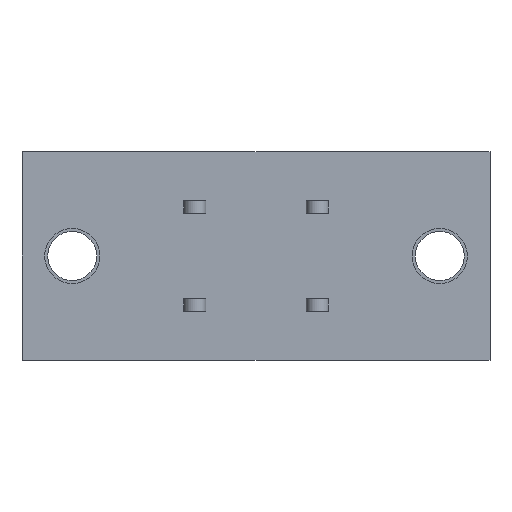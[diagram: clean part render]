
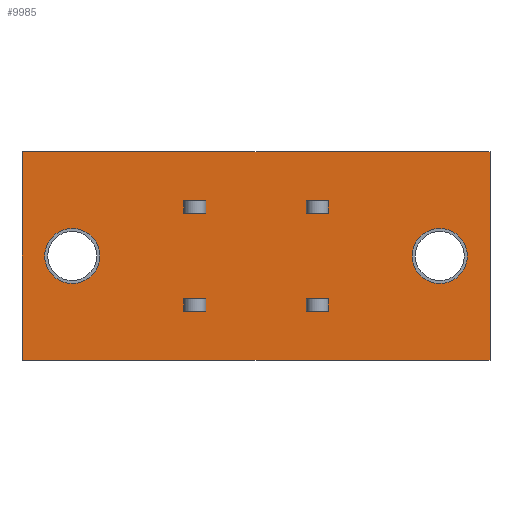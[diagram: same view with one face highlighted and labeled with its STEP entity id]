
A CAD part, front view. The second image highlights one B-rep face of the part: STEP entity #9985.
In plain terms, the highlighted planar face has unit normal (0, -1, 0).
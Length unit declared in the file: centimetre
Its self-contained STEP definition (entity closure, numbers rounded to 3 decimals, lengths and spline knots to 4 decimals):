
#526=CIRCLE('',#10588,0.225);
#527=CIRCLE('',#10589,0.225);
#619=VERTEX_POINT('',#13096);
#620=VERTEX_POINT('',#13097);
#623=VERTEX_POINT('',#13105);
#629=VERTEX_POINT('',#13120);
#630=VERTEX_POINT('',#13121);
#633=VERTEX_POINT('',#13129);
#635=VERTEX_POINT('',#13135);
#661=VERTEX_POINT('',#13208);
#676=VERTEX_POINT('',#13259);
#677=VERTEX_POINT('',#13260);
#678=VERTEX_POINT('',#13262);
#679=VERTEX_POINT('',#13264);
#680=VERTEX_POINT('',#13267);
#681=VERTEX_POINT('',#13268);
#682=VERTEX_POINT('',#13270);
#683=VERTEX_POINT('',#13272);
#684=VERTEX_POINT('',#13275);
#685=VERTEX_POINT('',#13276);
#686=VERTEX_POINT('',#13278);
#687=VERTEX_POINT('',#13280);
#688=VERTEX_POINT('',#13283);
#689=VERTEX_POINT('',#13285);
#1651=VECTOR('',#11137,1.);
#1655=VECTOR('',#11142,1.);
#1661=VECTOR('',#11152,1.);
#1664=VECTOR('',#11158,1.);
#1667=VECTOR('',#11162,1.);
#1693=VECTOR('',#11221,1.);
#1694=VECTOR('',#11223,1.);
#1705=VECTOR('',#11239,1.);
#1715=VECTOR('',#11264,1.);
#1716=VECTOR('',#11265,1.);
#1717=VECTOR('',#11266,1.);
#1718=VECTOR('',#11267,1.);
#1719=VECTOR('',#11268,1.);
#1720=VECTOR('',#11269,1.);
#1721=VECTOR('',#11270,1.);
#1722=VECTOR('',#11271,1.);
#1723=VECTOR('',#11272,1.);
#1724=VECTOR('',#11273,1.);
#1725=VECTOR('',#11274,1.);
#1726=VECTOR('',#11275,1.);
#2843=LINE('',#13095,#1651);
#2847=LINE('',#13104,#1655);
#2853=LINE('',#13119,#1661);
#2856=LINE('',#13128,#1664);
#2859=LINE('',#13134,#1667);
#2885=LINE('',#13205,#1693);
#2886=LINE('',#13207,#1694);
#2897=LINE('',#13228,#1705);
#2907=LINE('',#13258,#1715);
#2908=LINE('',#13261,#1716);
#2909=LINE('',#13263,#1717);
#2910=LINE('',#13265,#1718);
#2911=LINE('',#13266,#1719);
#2912=LINE('',#13269,#1720);
#2913=LINE('',#13271,#1721);
#2914=LINE('',#13273,#1722);
#2915=LINE('',#13274,#1723);
#2916=LINE('',#13277,#1724);
#2917=LINE('',#13279,#1725);
#2918=LINE('',#13281,#1726);
#4035=EDGE_CURVE('',#619,#620,#2843,.T.);
#4039=EDGE_CURVE('',#623,#619,#2847,.T.);
#4046=EDGE_CURVE('',#629,#630,#2853,.T.);
#4050=EDGE_CURVE('',#633,#629,#2856,.T.);
#4053=EDGE_CURVE('',#635,#633,#2859,.T.);
#4089=EDGE_CURVE('',#630,#635,#2885,.T.);
#4090=EDGE_CURVE('',#661,#623,#2886,.T.);
#4101=EDGE_CURVE('',#620,#661,#2897,.T.);
#4115=EDGE_CURVE('',#676,#677,#2907,.T.);
#4116=EDGE_CURVE('',#677,#678,#2908,.T.);
#4117=EDGE_CURVE('',#678,#679,#2909,.T.);
#4118=EDGE_CURVE('',#679,#676,#2910,.T.);
#4119=EDGE_CURVE('',#680,#681,#2911,.T.);
#4120=EDGE_CURVE('',#681,#682,#2912,.T.);
#4121=EDGE_CURVE('',#682,#683,#2913,.T.);
#4122=EDGE_CURVE('',#683,#680,#2914,.T.);
#4123=EDGE_CURVE('',#684,#685,#2915,.T.);
#4124=EDGE_CURVE('',#686,#685,#2916,.T.);
#4125=EDGE_CURVE('',#686,#687,#2917,.T.);
#4126=EDGE_CURVE('',#687,#684,#2918,.T.);
#4127=EDGE_CURVE('',#688,#688,#526,.T.);
#4128=EDGE_CURVE('',#689,#689,#527,.T.);
#5717=ORIENTED_EDGE('',*,*,#4115,.T.);
#5718=ORIENTED_EDGE('',*,*,#4116,.T.);
#5719=ORIENTED_EDGE('',*,*,#4117,.T.);
#5720=ORIENTED_EDGE('',*,*,#4118,.T.);
#5721=ORIENTED_EDGE('',*,*,#4119,.T.);
#5722=ORIENTED_EDGE('',*,*,#4120,.T.);
#5723=ORIENTED_EDGE('',*,*,#4121,.T.);
#5724=ORIENTED_EDGE('',*,*,#4122,.T.);
#5725=ORIENTED_EDGE('',*,*,#4123,.T.);
#5726=ORIENTED_EDGE('',*,*,#4124,.F.);
#5727=ORIENTED_EDGE('',*,*,#4125,.T.);
#5728=ORIENTED_EDGE('',*,*,#4126,.T.);
#5729=ORIENTED_EDGE('',*,*,#4127,.T.);
#5730=ORIENTED_EDGE('',*,*,#4128,.T.);
#5731=ORIENTED_EDGE('',*,*,#4053,.T.);
#5732=ORIENTED_EDGE('',*,*,#4050,.T.);
#5733=ORIENTED_EDGE('',*,*,#4046,.T.);
#5734=ORIENTED_EDGE('',*,*,#4089,.T.);
#5735=ORIENTED_EDGE('',*,*,#4039,.T.);
#5736=ORIENTED_EDGE('',*,*,#4035,.T.);
#5737=ORIENTED_EDGE('',*,*,#4101,.T.);
#5738=ORIENTED_EDGE('',*,*,#4090,.T.);
#8693=EDGE_LOOP('',(#5717,#5718,#5719,#5720));
#8694=EDGE_LOOP('',(#5721,#5722,#5723,#5724));
#8695=EDGE_LOOP('',(#5725,#5726,#5727,#5728));
#8696=EDGE_LOOP('',(#5729));
#8697=EDGE_LOOP('',(#5730));
#8698=EDGE_LOOP('',(#5731,#5732,#5733,#5734));
#8699=EDGE_LOOP('',(#5735,#5736,#5737,#5738));
#9341=FACE_BOUND('',#8693,.T.);
#9342=FACE_BOUND('',#8694,.T.);
#9343=FACE_BOUND('',#8695,.T.);
#9344=FACE_BOUND('',#8696,.T.);
#9345=FACE_BOUND('',#8697,.T.);
#9346=FACE_BOUND('',#8698,.T.);
#9347=FACE_BOUND('',#8699,.T.);
#9985=ADVANCED_FACE('',(#9341,#9342,#9343,#9344,#9345,#9346,#9347),#17257,
 .T.);
#10587=AXIS2_PLACEMENT_3D('',#13257,#11263,$);
#10588=AXIS2_PLACEMENT_3D('',#13282,#11276,#11277);
#10589=AXIS2_PLACEMENT_3D('',#13284,#11278,#11279);
#11137=DIRECTION('',(0.,0.,-1.));
#11142=DIRECTION('',(1.,0.,0.));
#11152=DIRECTION('',(1.,0.,0.));
#11158=DIRECTION('',(0.,0.,1.));
#11162=DIRECTION('',(-1.,0.,0.));
#11221=DIRECTION('',(0.,0.,-1.));
#11223=DIRECTION('',(0.,0.,1.));
#11239=DIRECTION('',(-1.,0.,0.));
#11263=DIRECTION('',(0.,-1.,0.));
#11264=DIRECTION('',(1.,0.,0.));
#11265=DIRECTION('',(0.,0.,-1.));
#11266=DIRECTION('',(-1.,0.,0.));
#11267=DIRECTION('',(0.,0.,1.));
#11268=DIRECTION('',(-1.,0.,0.));
#11269=DIRECTION('',(0.,0.,1.));
#11270=DIRECTION('',(1.,0.,0.));
#11271=DIRECTION('',(0.,0.,-1.));
#11272=DIRECTION('',(1.,0.,0.));
#11273=DIRECTION('',(0.,0.,-1.));
#11274=DIRECTION('',(-1.,0.,0.));
#11275=DIRECTION('',(0.,0.,-1.));
#11276=DIRECTION('',(0.,1.,0.));
#11277=DIRECTION('',(0.,0.,0.225));
#11278=DIRECTION('',(0.,1.,0.));
#11279=DIRECTION('',(0.,0.,0.225));
#13095=CARTESIAN_POINT('',(1.68,0.,-0.2));
#13096=CARTESIAN_POINT('',(1.68,0.,-0.35));
#13097=CARTESIAN_POINT('',(1.68,0.,-0.45));
#13104=CARTESIAN_POINT('',(0.795,0.,-0.35));
#13105=CARTESIAN_POINT('',(1.5,0.,-0.35));
#13119=CARTESIAN_POINT('',(0.795,0.,0.45));
#13120=CARTESIAN_POINT('',(1.5,0.,0.45));
#13121=CARTESIAN_POINT('',(1.68,0.,0.45));
#13128=CARTESIAN_POINT('',(1.5,0.,0.2));
#13129=CARTESIAN_POINT('',(1.5,0.,0.35));
#13134=CARTESIAN_POINT('',(0.795,0.,0.35));
#13135=CARTESIAN_POINT('',(1.68,0.,0.35));
#13205=CARTESIAN_POINT('',(1.68,0.,0.2));
#13207=CARTESIAN_POINT('',(1.5,0.,-0.2));
#13208=CARTESIAN_POINT('',(1.5,0.,-0.45));
#13228=CARTESIAN_POINT('',(0.795,0.,-0.45));
#13257=CARTESIAN_POINT('',(0.,0.,0.));
#13258=CARTESIAN_POINT('',(0.295,0.,-0.35));
#13259=CARTESIAN_POINT('',(0.5,0.,-0.35));
#13260=CARTESIAN_POINT('',(0.68,0.,-0.35));
#13261=CARTESIAN_POINT('',(0.68,0.,-0.2));
#13262=CARTESIAN_POINT('',(0.68,0.,-0.45));
#13263=CARTESIAN_POINT('',(0.295,0.,-0.45));
#13264=CARTESIAN_POINT('',(0.5,0.,-0.45));
#13265=CARTESIAN_POINT('',(0.5,0.,-0.2));
#13266=CARTESIAN_POINT('',(0.295,0.,0.35));
#13267=CARTESIAN_POINT('',(0.68,0.,0.35));
#13268=CARTESIAN_POINT('',(0.5,0.,0.35));
#13269=CARTESIAN_POINT('',(0.5,0.,0.2));
#13270=CARTESIAN_POINT('',(0.5,0.,0.45));
#13271=CARTESIAN_POINT('',(0.295,0.,0.45));
#13272=CARTESIAN_POINT('',(0.68,0.,0.45));
#13273=CARTESIAN_POINT('',(0.68,0.,0.2));
#13274=CARTESIAN_POINT('',(1.,0.,-0.85));
#13275=CARTESIAN_POINT('',(-0.82,0.,-0.85));
#13276=CARTESIAN_POINT('',(3.,0.,-0.85));
#13277=CARTESIAN_POINT('',(3.,0.,0.85));
#13278=CARTESIAN_POINT('',(3.,0.,0.85));
#13279=CARTESIAN_POINT('',(0.,0.,0.85));
#13280=CARTESIAN_POINT('',(-0.82,0.,0.85));
#13281=CARTESIAN_POINT('',(-0.82,0.,0.85));
#13282=CARTESIAN_POINT('',(-0.41,0.,0.));
#13283=CARTESIAN_POINT('',(-0.41,0.,-0.225));
#13284=CARTESIAN_POINT('',(2.59,0.,0.));
#13285=CARTESIAN_POINT('',(2.59,0.,-0.225));
#17257=PLANE('',#10587);
